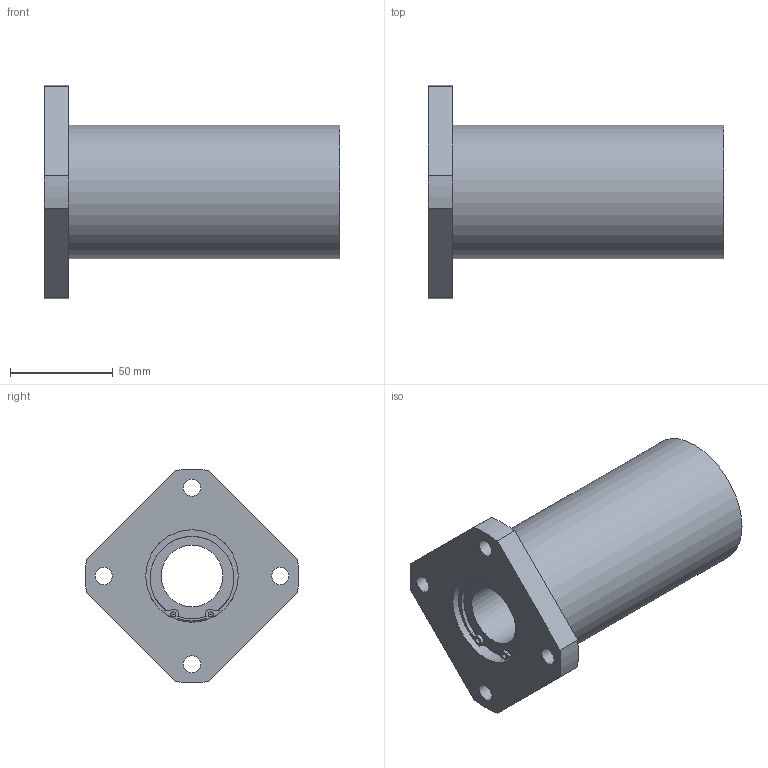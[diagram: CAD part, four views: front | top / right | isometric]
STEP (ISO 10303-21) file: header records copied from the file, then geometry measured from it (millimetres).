
FILE_DESCRIPTION((''),'2;1');
FILE_NAME('C:\Documents and Settings\土屋\My Documents\土屋移動用フォルダ\製品 (図面)\カタログ用3D\変換ファイル\OZAK_3D-CAD(STEP形式)\Part1.-Linear Bearings_ﾘﾆｱﾍﾞｱﾘﾝｸﾞ\09_Maintenance Free_ﾒｲﾝﾃﾅﾝｽﾌﾘｰ\L2017-09-21T17:51:03','2017-09-21T17:51:03',('y'),(''),'Autodesk Inventor 11','Autodesk Inventor 11','');
FILE_SCHEMA(('AUTOMOTIVE_DESIGN { 1 0 10303 214 1 1 1 1 }'));
Length unit declared in the file: millimetre
Products named in the file (1): LFWK30MF
Bounding box: 144 x 103.86 x 103.86 mm (x, y, z)
Volume: 406052.9 mm3; surface area: 60805 mm2
Topology: 1 solids, 3 shells, 71 faces, 204 edges, 126 vertices
Faces by surface type: plane 30, cylinder 25, bspline 14, torus 2
Full cylindrical faces by diameter (mm): 2.5 x2, 8.376 x4, 30 x1, 41.7 x2, 43 x2, 45 x4, 65 x1
Entity records: 2284 total; most frequent: CARTESIAN_POINT 488, DIRECTION 404, ORIENTED_EDGE 332, AXIS2_PLACEMENT_3D 180, EDGE_CURVE 166, CIRCLE 122, EDGE_LOOP 114, VERTEX_POINT 110
